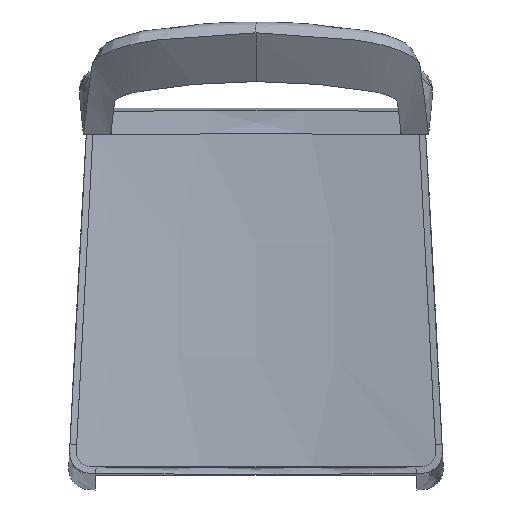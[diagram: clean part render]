
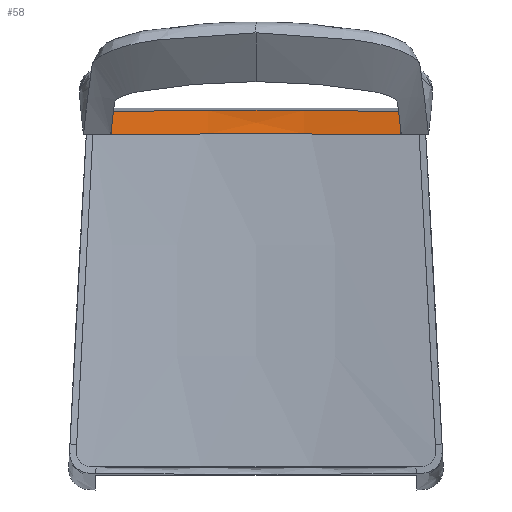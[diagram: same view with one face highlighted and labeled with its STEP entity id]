
A CAD part, top view. The second image highlights one B-rep face of the part: STEP entity #58.
In plain terms, the highlighted free-form (B-spline) face has degree [2, 3] with [3, 7] control points.
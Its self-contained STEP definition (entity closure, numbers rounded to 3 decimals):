
#58=ADVANCED_FACE('',(#154),#1652,.T.);
#154=FACE_OUTER_BOUND('',#258,.T.);
#258=EDGE_LOOP('',(#513,#514,#515,#516));
#513=ORIENTED_EDGE('',*,*,#941,.F.);
#514=ORIENTED_EDGE('',*,*,#942,.F.);
#515=ORIENTED_EDGE('',*,*,#937,.F.);
#516=ORIENTED_EDGE('',*,*,#940,.F.);
#937=EDGE_CURVE('',#1456,#1457,#1202,.T.);
#940=EDGE_CURVE('',#1455,#1456,#1205,.T.);
#941=EDGE_CURVE('',#1458,#1455,#1206,.T.);
#942=EDGE_CURVE('',#1457,#1458,#1207,.T.);
#1202=B_SPLINE_CURVE_WITH_KNOTS('',3,(#7961,#7962,#7963,#7964,#7965,#7966,
#7967),.UNSPECIFIED.,.F.,.F.,(4,3,4),(0.,175.267,350.534),
 .UNSPECIFIED.);
#1205=B_SPLINE_CURVE_WITH_KNOTS('',3,(#7972,#7973,#7974,#7975),
 .UNSPECIFIED.,.F.,.F.,(4,4),(0.,28.377),.UNSPECIFIED.);
#1206=B_SPLINE_CURVE_WITH_KNOTS('',3,(#7976,#7977,#7978,#7979,#7980,#7981,
#7982,#7983,#7984,#7985,#7986,#7987,#7988,#7989,#7990),.UNSPECIFIED.,.F.,
 .F.,(4,2,2,3,2,2,4),(0.,43.426,86.851,173.71,
260.57,303.995,347.421),.UNSPECIFIED.);
#1207=B_SPLINE_CURVE_WITH_KNOTS('',3,(#7991,#7992,#7993,#7994),
 .UNSPECIFIED.,.F.,.F.,(4,4),(0.,28.377),.UNSPECIFIED.);
#1455=VERTEX_POINT('',#6601);
#1456=VERTEX_POINT('',#6602);
#1457=VERTEX_POINT('',#6603);
#1458=VERTEX_POINT('',#6604);
#1652=(
BOUNDED_SURFACE()
B_SPLINE_SURFACE(2,3,((#4877,#4878,#4879,#4880,#4881,#4882,#4883),(#4884,
#4885,#4886,#4887,#4888,#4889,#4890),(#4891,#4892,#4893,#4894,#4895,#4896,
#4897)),.UNSPECIFIED.,.F.,.F.,.F.)
B_SPLINE_SURFACE_WITH_KNOTS((3,3),(4,3,4),(-37.314,1.001),
(-1842.489,-1658.616,-1474.743),.UNSPECIFIED.)
GEOMETRIC_REPRESENTATION_ITEM()
RATIONAL_B_SPLINE_SURFACE(((1.,1.,1.,1.,1.,1.,1.),(1.,1.,1.,1.,1.,1.,1.),
(1.,1.,1.,1.,1.,1.,1.)))
REPRESENTATION_ITEM('')
SURFACE()
);
#4877=CARTESIAN_POINT('',(182.969,177.858,419.934));
#4878=CARTESIAN_POINT('',(122.338,177.858,410.535));
#4879=CARTESIAN_POINT('',(61.169,177.858,405.836));
#4880=CARTESIAN_POINT('',(0.,177.858,405.836));
#4881=CARTESIAN_POINT('',(-61.169,177.858,405.836));
#4882=CARTESIAN_POINT('',(-122.338,177.858,410.535));
#4883=CARTESIAN_POINT('',(-182.969,177.858,419.934));
#4884=CARTESIAN_POINT('',(182.969,197.002,419.266));
#4885=CARTESIAN_POINT('',(122.338,197.002,409.868));
#4886=CARTESIAN_POINT('',(61.169,197.002,405.168));
#4887=CARTESIAN_POINT('',(0.,197.002,405.168));
#4888=CARTESIAN_POINT('',(-61.169,197.002,405.168));
#4889=CARTESIAN_POINT('',(-122.338,197.002,409.868));
#4890=CARTESIAN_POINT('',(-182.969,197.002,419.266));
#4891=CARTESIAN_POINT('',(182.969,216.145,418.598));
#4892=CARTESIAN_POINT('',(122.338,216.145,409.2));
#4893=CARTESIAN_POINT('',(61.169,216.145,404.501));
#4894=CARTESIAN_POINT('',(0.,216.145,404.501));
#4895=CARTESIAN_POINT('',(-61.169,216.145,404.501));
#4896=CARTESIAN_POINT('',(-122.338,216.145,409.2));
#4897=CARTESIAN_POINT('',(-182.969,216.145,418.598));
#6601=CARTESIAN_POINT('',(173.062,209.619,417.333));
#6602=CARTESIAN_POINT('',(174.467,181.302,418.527));
#6603=CARTESIAN_POINT('',(-174.467,181.302,418.527));
#6604=CARTESIAN_POINT('',(-173.062,209.619,417.333));
#7961=CARTESIAN_POINT('',(174.467,181.302,418.527));
#7962=CARTESIAN_POINT('',(116.708,182.284,409.965));
#7963=CARTESIAN_POINT('',(58.398,182.777,405.665));
#7964=CARTESIAN_POINT('',(0.,182.777,405.665));
#7965=CARTESIAN_POINT('',(-58.398,182.777,405.665));
#7966=CARTESIAN_POINT('',(-116.708,182.284,409.965));
#7967=CARTESIAN_POINT('',(-174.467,181.302,418.527));
#7972=CARTESIAN_POINT('',(173.062,209.619,417.333));
#7973=CARTESIAN_POINT('',(173.532,200.18,417.731));
#7974=CARTESIAN_POINT('',(174.,190.741,418.129));
#7975=CARTESIAN_POINT('',(174.467,181.302,418.527));
#7976=CARTESIAN_POINT('',(-173.062,209.619,417.333));
#7977=CARTESIAN_POINT('',(-158.743,209.861,415.228));
#7978=CARTESIAN_POINT('',(-144.387,210.072,413.384));
#7979=CARTESIAN_POINT('',(-115.614,210.435,410.221));
#7980=CARTESIAN_POINT('',(-101.2,210.586,408.902));
#7981=CARTESIAN_POINT('',(-57.892,210.95,405.735));
#7982=CARTESIAN_POINT('',(-28.951,211.071,404.678));
#7983=CARTESIAN_POINT('',(0.,211.071,404.678));
#7984=CARTESIAN_POINT('',(28.951,211.071,404.678));
#7985=CARTESIAN_POINT('',(57.892,210.95,405.735));
#7986=CARTESIAN_POINT('',(101.2,210.586,408.902));
#7987=CARTESIAN_POINT('',(115.614,210.435,410.221));
#7988=CARTESIAN_POINT('',(144.387,210.072,413.384));
#7989=CARTESIAN_POINT('',(158.743,209.861,415.228));
#7990=CARTESIAN_POINT('',(173.062,209.619,417.333));
#7991=CARTESIAN_POINT('',(-174.467,181.302,418.527));
#7992=CARTESIAN_POINT('',(-174.,190.741,418.129));
#7993=CARTESIAN_POINT('',(-173.532,200.18,417.731));
#7994=CARTESIAN_POINT('',(-173.062,209.619,417.333));
